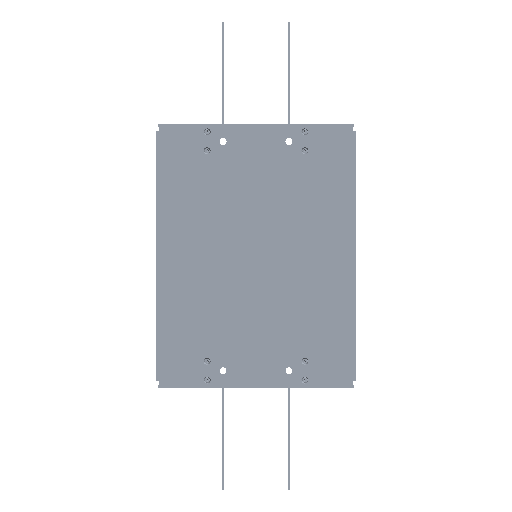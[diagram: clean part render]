
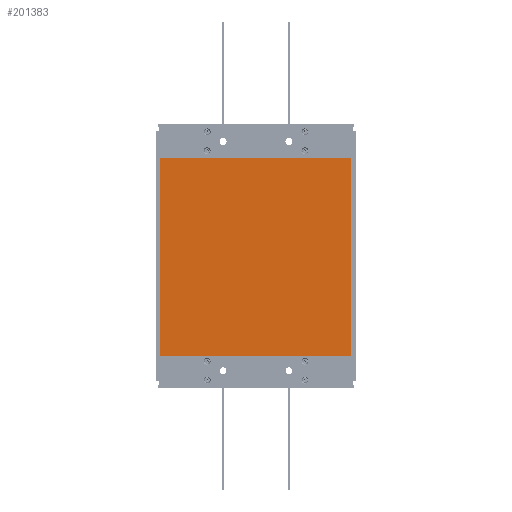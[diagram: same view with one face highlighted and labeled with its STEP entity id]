
A CAD part, front view. The second image highlights one B-rep face of the part: STEP entity #201383.
In plain terms, the highlighted planar face has unit normal (0, -1, 0).
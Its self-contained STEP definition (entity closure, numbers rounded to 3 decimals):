
#63188=DIRECTION('',(0.,0.,1.));
#63189=VECTOR('',#63188,210.);
#63190=CARTESIAN_POINT('',(3.9,-73.5,34.65));
#63191=LINE('',#63190,#63189);
#63192=DIRECTION('',(1.,0.,0.));
#63193=VECTOR('',#63192,203.);
#63194=CARTESIAN_POINT('',(3.9,-73.5,244.65));
#63195=LINE('',#63194,#63193);
#63196=DIRECTION('',(0.,0.,-1.));
#63197=VECTOR('',#63196,210.);
#63198=CARTESIAN_POINT('',(206.9,-73.5,244.65));
#63199=LINE('',#63198,#63197);
#63200=DIRECTION('',(-1.,0.,0.));
#63201=VECTOR('',#63200,203.);
#63202=CARTESIAN_POINT('',(206.9,-73.5,34.65));
#63203=LINE('',#63202,#63201);
#100787=CARTESIAN_POINT('',(3.9,-73.5,34.65));
#100788=CARTESIAN_POINT('',(3.9,-73.5,244.65));
#100789=VERTEX_POINT('',#100787);
#100790=VERTEX_POINT('',#100788);
#100791=CARTESIAN_POINT('',(206.9,-73.5,244.65));
#100792=VERTEX_POINT('',#100791);
#100793=CARTESIAN_POINT('',(206.9,-73.5,34.65));
#100794=VERTEX_POINT('',#100793);
#201372=CARTESIAN_POINT('',(105.4,-73.5,139.65));
#201373=DIRECTION('',(0.,1.,0.));
#201374=DIRECTION('',(1.,0.,0.));
#201375=AXIS2_PLACEMENT_3D('',#201372,#201373,#201374);
#201376=PLANE('',#201375);
#201377=ORIENTED_EDGE('',*,*,#201118,.T.);
#201378=ORIENTED_EDGE('',*,*,#201141,.T.);
#201379=ORIENTED_EDGE('',*,*,#201353,.T.);
#201380=ORIENTED_EDGE('',*,*,#201366,.T.);
#201381=EDGE_LOOP('',(#201377,#201378,#201379,#201380));
#201382=FACE_OUTER_BOUND('',#201381,.F.);
#201383=ADVANCED_FACE('',(#201382),#201376,.F.);
#201118=EDGE_CURVE('',#100789,#100790,#63191,.T.);
#201141=EDGE_CURVE('',#100790,#100792,#63195,.T.);
#201353=EDGE_CURVE('',#100792,#100794,#63199,.T.);
#201366=EDGE_CURVE('',#100794,#100789,#63203,.T.);
